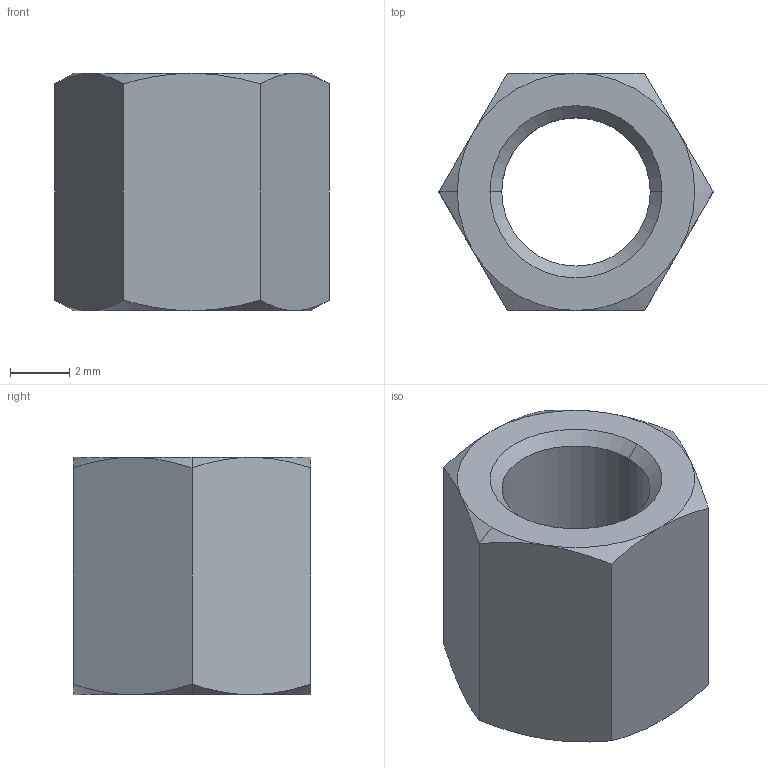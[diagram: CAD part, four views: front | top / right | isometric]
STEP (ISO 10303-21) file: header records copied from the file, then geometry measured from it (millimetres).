
FILE_DESCRIPTION (( 'STEP AP203' ), '1' );
FILE_NAME ('N0503.050-008-NP.step', '2025-02-27T14:43:39', ( '' ), ( '' ), 'SwSTEP 2.0', 'SolidWorks 2019', '' );
FILE_SCHEMA (( 'CONFIG_CONTROL_DESIGN' ));
Length unit declared in the file: millimetre
Products named in the file (1): N0503.050-008-NP
Bounding box: 9.24 x 8 x 8 mm (x, y, z)
Volume: 282.6 mm3; surface area: 406.8 mm2
Topology: 1 solids, 1 shells, 28 faces, 60 edges, 34 vertices
Faces by surface type: cone 18, plane 8, cylinder 2
Entity records: 875 total; most frequent: CARTESIAN_POINT 223, ORIENTED_EDGE 120, DIRECTION 116, EDGE_CURVE 60, AXIS2_PLACEMENT_3D 51, VERTEX_POINT 34, EDGE_LOOP 30, FACE_OUTER_BOUND 28
